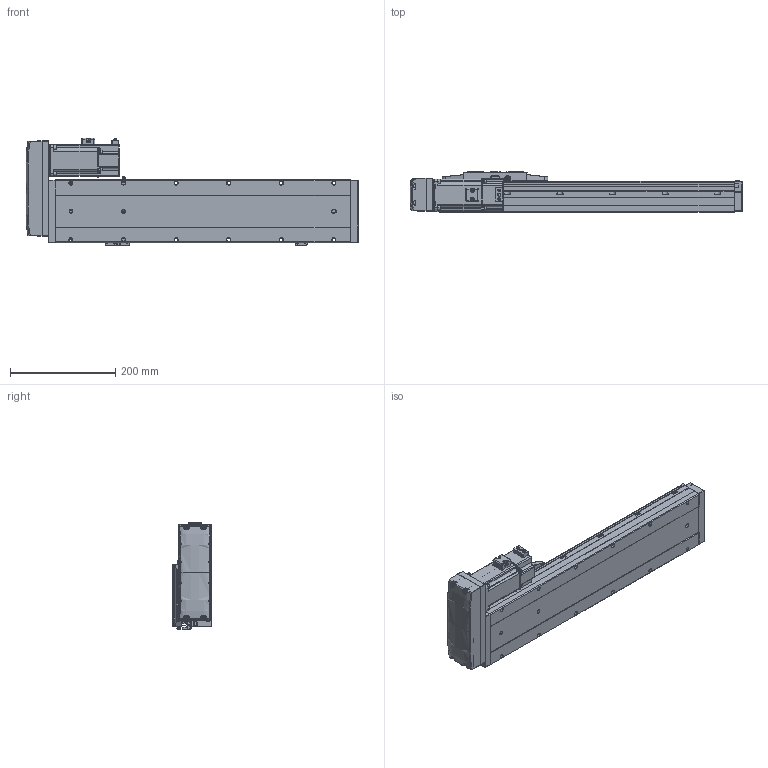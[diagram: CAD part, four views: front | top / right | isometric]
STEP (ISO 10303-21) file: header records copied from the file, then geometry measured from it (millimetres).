
FILE_DESCRIPTION (( 'STEP AP214' ), '1' );
FILE_NAME ('CTH12-L10-S350-BL-C40（简）.STEP', '2023-02-06T05:06:24', ( '' ), ( '' ), 'SwSTEP 2.0', 'SolidWorks 2018', '' );
FILE_SCHEMA (( 'AUTOMOTIVE_DESIGN' ));
Length unit declared in the file: millimetre
Products named in the file (24): CTH12侧装连接板（标准）简; CTH400W假蚾啣; CTH12-BL_body_4; 嫖萇羲壽郪磁1; CTH12_body_3; 内六角圆柱头螺钉M3-2; CTH12底座-L561简（350行程）; 内六角圆柱头螺钉M3-1; CTH12-L10-S350-BL-C40（简）; 内六角圆柱头螺钉M3; CTH12賑怢ㄗ潠ㄘ; 嫖萇羲壽郪磁2; PM-Y45; 蚐郲; 400W萇儂; CTH嫖萇羲壽假蚾啣; 湮賑怢  裔赽-1(CTH12)賑怢; CTH400W垫板（3个厚）; CTH12覜茼え; hex nuts, style 1-grades ab gb_GB_FASTENER_NUT_SNAB1 M3-N; CTH12賑怢郪磁; M5蹟隊; CTH12耜蚾裔; CTH12
Assembly tree (44 placements, depth 4):
  CTH12-L10-S350-BL-C40（简）
    CTH12底座-L561简（350行程）
    蚐郲  x2
    CTH12_body_3
    CTH12-BL_body_4
    CTH12侧装连接板（标准）简
    CTH12耜蚾裔
    CTH12賑怢郪磁
      CTH12
        湮賑怢  裔赽-1(CTH12)賑怢
        CTH12賑怢ㄗ潠ㄘ
    CTH12覜茼え
    CTH400W垫板（3个厚）
    400W萇儂
    内六角圆柱头螺钉M3  x6
    M5蹟隊  x4
    嫖萇羲壽郪磁1
      CTH嫖萇羲壽假蚾啣
      PM-Y45
      内六角圆柱头螺钉M3-2  x2
      内六角圆柱头螺钉M3-1  x2
      hex nuts, style 1-grades ab gb_GB_FASTENER_NUT_SNAB1 M3-N  x2
    嫖萇羲壽郪磁2  x2
      CTH嫖萇羲壽假蚾啣
      PM-Y45
      内六角圆柱头螺钉M3-1
      内六角圆柱头螺钉M3-2
      hex nuts, style 1-grades ab gb_GB_FASTENER_NUT_SNAB1 M3-N
    CTH400W假蚾啣
Bounding box: 631.5 x 76 x 205.26 mm (x, y, z)
Volume: 4440162.6 mm3; surface area: 557142.1 mm2
Topology: 47 solids, 48 shells, 3110 faces, 7749 edges, 4861 vertices
Faces by surface type: plane 1514, cylinder 899, cone 391, bspline 178, torus 124, sphere 4
Entity records: 101978 total; most frequent: CARTESIAN_POINT 38170, ORIENTED_EDGE 12600, DIRECTION 11882, EDGE_CURVE 6300, AXIS2_PLACEMENT_3D 4160, VERTEX_POINT 3965, LINE 3562, VECTOR 3562
